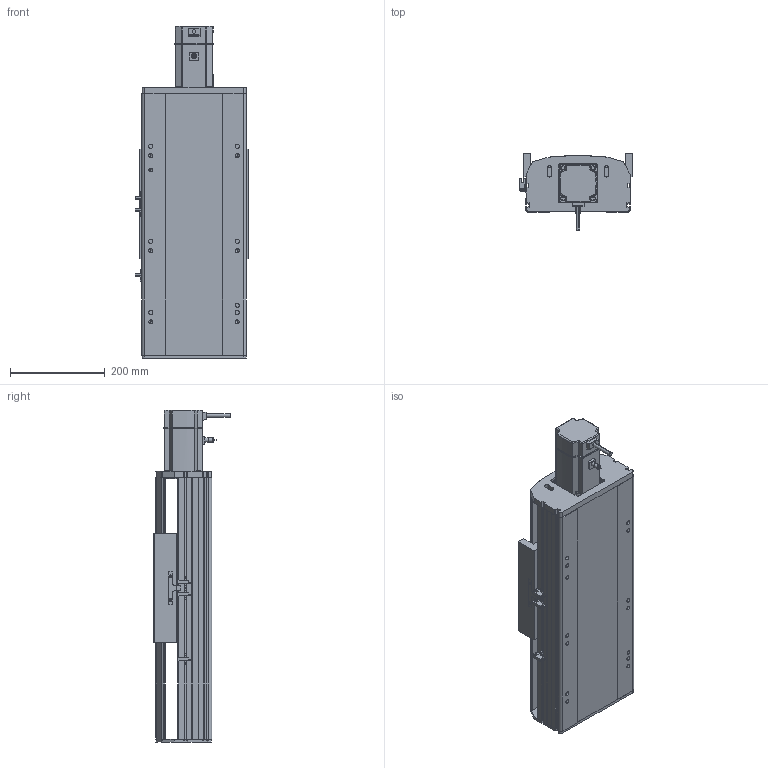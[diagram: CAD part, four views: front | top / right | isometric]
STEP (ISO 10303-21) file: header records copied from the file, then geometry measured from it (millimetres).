
FILE_DESCRIPTION (( 'STEP AP214' ), '1' );
FILE_NAME ('RTH22-XX-150-E-M75-C4.STEP', '2025-10-24T10:41:01', ( 'Microsoft' ), ( 'Microsoft' ), 'SwSTEP 2.0', 'SolidWorks 2018', '' );
FILE_SCHEMA (( 'AUTOMOTIVE_DESIGN' ));
Length unit declared in the file: millimetre
Products named in the file (9): N_RTH22-E-004-SFS25賑釱^RTH22-XX-XX-E-M75-C4; N_RTH22-GY-013外置感应片^RTH22-XX-XX-E-M75-C4; N_RTH22-E-007奻裔^RTH22-XX-XX-E-M75-C4; N_OMRON EE-SX672 传感器^RTH22-XX-XX-E-M75-C4; N_RTH22-GY-001耜裔^RTH22-XX-XX-E-M75-C4; N_RTH22-E-011菁釱^RTH22-XX-XX-E-M75-C4; RTH22-XX-150-E-M75-C4; N_750W萇儂^RTH22-XX-XX-E-M75-C4; N_RTH22-E-008萇儂啣^RTH22-XX-XX-E-M75-C4
Assembly tree (10 placements, depth 2):
  RTH22-XX-150-E-M75-C4
    N_RTH22-E-011菁釱^RTH22-XX-XX-E-M75-C4
    N_RTH22-GY-001耜裔^RTH22-XX-XX-E-M75-C4
    N_RTH22-E-008萇儂啣^RTH22-XX-XX-E-M75-C4
    N_RTH22-E-007奻裔^RTH22-XX-XX-E-M75-C4
    N_RTH22-GY-013外置感应片^RTH22-XX-XX-E-M75-C4
    N_RTH22-E-004-SFS25賑釱^RTH22-XX-XX-E-M75-C4
    N_750W萇儂^RTH22-XX-XX-E-M75-C4
    N_OMRON EE-SX672 传感器^RTH22-XX-XX-E-M75-C4  x3
Bounding box: 238.5 x 160.7 x 699 mm (x, y, z)
Volume: 9486921.9 mm3; surface area: 1027614.7 mm2
Topology: 10 solids, 10 shells, 1469 faces, 4024 edges, 2609 vertices
Faces by surface type: plane 748, cylinder 400, bspline 279, cone 42
Entity records: 35831 total; most frequent: CARTESIAN_POINT 11385, ORIENTED_EDGE 5056, DIRECTION 4674, EDGE_CURVE 2528, VERTEX_POINT 1645, VECTOR 1590, LINE 1590, AXIS2_PLACEMENT_3D 1542
